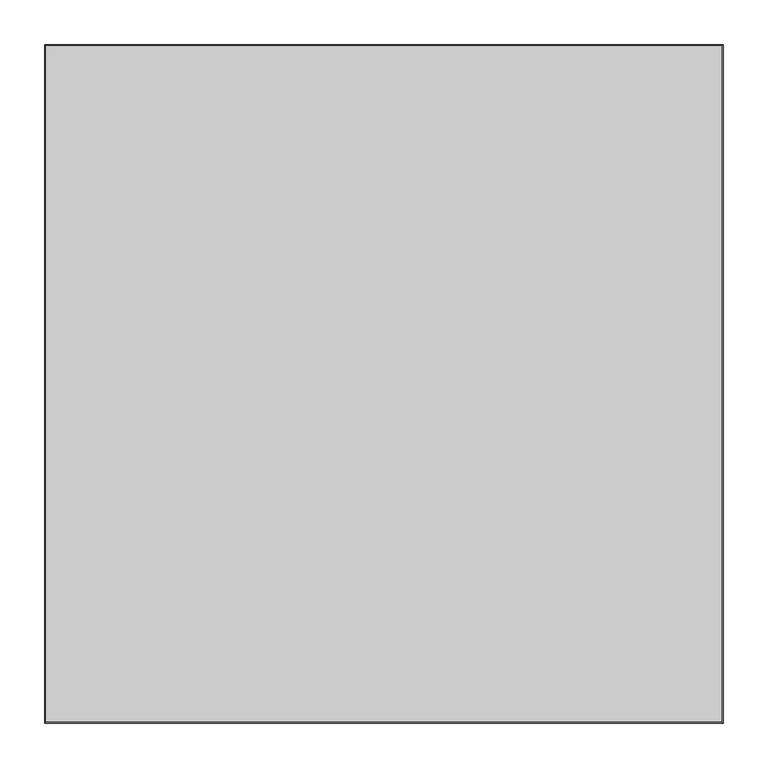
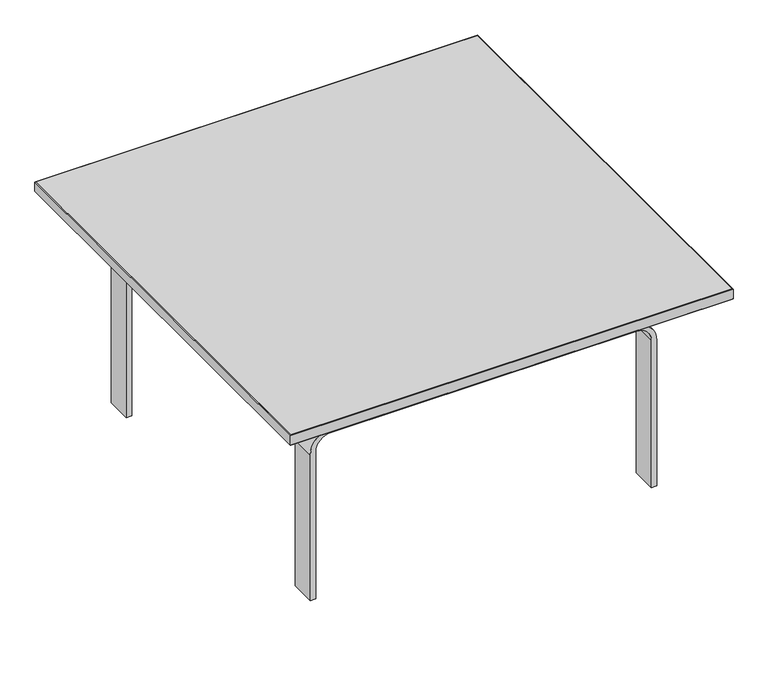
"""IFC4 building model written with IfcOpenShell, lengths in millimetres: furniture geometry, Steelcase Coalesse - Millbrae - Table (1) : Square - 30D x 30W x 15H."""

from ifc_helpers import new_model, si_unit, point, frame, frame_2d, origin, place, context, project, spatial, polyline, circle_curve, trimmed, segment, composite_curve, outline, extrude, faceted_brep, source, transform, mapped, element, save


def furniture_46ca7431(model_context):
    return source(origin(), model_context, "Body", "SolidModel", [
        faceted_brep([(-420.1702118, 1.015999, 361.95), (-420.1702118, 1.015999, 381.0), (-420.1702118, 760.9839783, 381.0), (-420.1702118, 760.9839783, 361.95), (-419.1542128, 0.0, 362.965999), (-419.1542128, 761.9999773, 362.965999), (-419.1542128, 0.0, 379.984001), (-419.1542128, 761.9999773, 379.984001), (-1180.1382118, 760.9839783, 381.0), (-1180.1382118, 760.9839783, 361.95), (-1181.1542108, 761.9999773, 362.965999), (-1181.1542108, 761.9999773, 379.984001), (-1180.1382118, 1.015999, 381.0), (-1180.1382118, 1.015999, 361.95), (-1181.1542108, 0.0, 362.965999), (-1181.1542108, 0.0, 379.984001)], [[[0, 1, 2, 3]], [[4, 0, 3, 5]], [[6, 4, 5, 7]], [[1, 6, 7, 2]], [[3, 2, 8, 9]], [[5, 3, 9, 10]], [[7, 5, 10, 11]], [[2, 7, 11, 8]], [[9, 8, 12, 13]], [[10, 9, 13, 14]], [[11, 10, 14, 15]], [[8, 11, 15, 12]], [[13, 12, 1, 0]], [[14, 13, 0, 4]], [[15, 14, 4, 6]], [[12, 15, 6, 1]]]),
        extrude(outline(polyline([(-420.1702118, 760.9839783), (-420.1702118, 1.015999), (-1180.1382118, 1.015999), (-1180.1382118, 760.9839783), (-420.1702118, 760.9839783)])), frame((0.0, 0.0, 361.95), z_axis=(0.0, 0.0, 1.0), x_axis=(1.0, 0.0, 0.0)), (0.0, 0.0, 1.0), 19.05),
        extrude(outline(composite_curve([segment(trimmed(circle_curve(frame_2d((268.4779922, -536.6291876)), 25.4), [point((293.8779922, -536.6291876))], [point((268.4779922, -511.2291876))], True, "CARTESIAN"), True, "CONTINUOUS"), segment(polyline([(268.4779922, -511.2291876), (0.0, -511.2291876), (0.0, -501.7041876), (265.3029922, -501.7041876)]), True, "CONTINUOUS"), segment(trimmed(circle_curve(frame_2d((265.3029922, -539.8041876)), 38.1), [point((265.3029922, -501.7041876))], [point((303.4029922, -539.8041876))], False, "CARTESIAN"), True, "CONTINUOUS"), segment(polyline([(303.4029922, -539.8041876), (303.4029922, -1060.5042088)]), True, "CONTINUOUS"), segment(trimmed(circle_curve(frame_2d((265.3029922, -1060.5042088)), 38.1), [point((303.4029922, -1060.5042088))], [point((265.3029922, -1098.6042088))], False, "CARTESIAN"), True, "CONTINUOUS"), segment(polyline([(265.3029922, -1098.6042088), (0.0, -1098.6042088), (0.0, -1089.0792088), (268.4779922, -1089.0792088)]), True, "CONTINUOUS"), segment(trimmed(circle_curve(frame_2d((268.4779922, -1063.6792088)), 25.4), [point((268.4779922, -1089.0792088))], [point((293.8779922, -1063.6792088))], True, "CARTESIAN"), True, "CONTINUOUS"), segment(polyline([(293.8779922, -1063.6792088), (293.8779922, -536.6291876)]), True, "CONTINUOUS")], self_intersect=False)), frame((0.0, 633.349, 0.0), z_axis=(0.0, 1.0, 0.0), x_axis=(0.0, 0.0, 1.0)), (0.0, 0.0, 1.0), 44.45),
        extrude(outline(composite_curve([segment(trimmed(circle_curve(frame_2d((268.4779922, -536.6291876)), 25.4), [point((293.8779922, -536.6291876))], [point((268.4779922, -511.2291876))], True, "CARTESIAN"), True, "CONTINUOUS"), segment(polyline([(268.4779922, -511.2291876), (0.0, -511.2291876), (0.0, -501.7041876), (265.3029922, -501.7041876)]), True, "CONTINUOUS"), segment(trimmed(circle_curve(frame_2d((265.3029922, -539.8041876)), 38.1), [point((265.3029922, -501.7041876))], [point((303.4029922, -539.8041876))], False, "CARTESIAN"), True, "CONTINUOUS"), segment(polyline([(303.4029922, -539.8041876), (303.4029922, -1060.5042088)]), True, "CONTINUOUS"), segment(trimmed(circle_curve(frame_2d((265.3029922, -1060.5042088)), 38.1), [point((303.4029922, -1060.5042088))], [point((265.3029922, -1098.6042088))], False, "CARTESIAN"), True, "CONTINUOUS"), segment(polyline([(265.3029922, -1098.6042088), (0.0, -1098.6042088), (0.0, -1089.0792088), (268.4779922, -1089.0792088)]), True, "CONTINUOUS"), segment(trimmed(circle_curve(frame_2d((268.4779922, -1063.6792088)), 25.4), [point((268.4779922, -1089.0792088))], [point((293.8779922, -1063.6792088))], True, "CARTESIAN"), True, "CONTINUOUS"), segment(polyline([(293.8779922, -1063.6792088), (293.8779922, -536.6291876)]), True, "CONTINUOUS")], self_intersect=False)), frame((0.0, 84.201, 0.0), z_axis=(0.0, 1.0, 0.0), x_axis=(0.0, 0.0, 1.0)), (0.0, 0.0, 1.0), 44.45),
        extrude(outline(polyline([(-1028.7542118, 112.7759651), (-1028.7542118, 100.0760136), (-1041.4542088, 100.0760136), (-1041.4542088, 112.7759651), (-1028.7542118, 112.7759651)])), frame((0.0, 0.0, 357.3780044), z_axis=(0.0, 0.0, 1.0), x_axis=(1.0, 0.0, 0.0)), (0.0, 0.0, 1.0), 4.5719956),
        extrude(outline(polyline([(-1028.7542118, 649.2240122), (-1041.4542088, 649.2240122), (-1041.4542088, 661.9239637), (-1028.7542118, 661.9239637), (-1028.7542118, 649.2240122)])), frame((0.0, 0.0, 357.3780044), z_axis=(0.0, 0.0, 1.0), x_axis=(1.0, 0.0, 0.0)), (0.0, 0.0, 1.0), 4.5719956),
        extrude(outline(polyline([(-571.5542118, 112.7759651), (-558.8542148, 112.7759651), (-558.8542148, 100.0760136), (-571.5542118, 100.0760136), (-571.5542118, 112.7759651)])), frame((0.0, 0.0, 357.3780044), z_axis=(0.0, 0.0, 1.0), x_axis=(1.0, 0.0, 0.0)), (0.0, 0.0, 1.0), 4.5719956),
        extrude(outline(polyline([(-571.5542118, 649.2240122), (-571.5542118, 661.9239637), (-558.8542148, 661.9239637), (-558.8542148, 649.2240122), (-571.5542118, 649.2240122)])), frame((0.0, 0.0, 357.3780044), z_axis=(0.0, 0.0, 1.0), x_axis=(1.0, 0.0, 0.0)), (0.0, 0.0, 1.0), 4.5719956),
        extrude(outline(polyline([(-1022.4042179, 119.1260136), (-1022.4042179, 93.7259651), (-1047.8042118, 93.7259651), (-1047.8042118, 119.1260136), (-1022.4042179, 119.1260136)])), frame((0.0, 0.0, 303.4029922), z_axis=(0.0, 0.0, 1.0), x_axis=(1.0, 0.0, 0.0)), (0.0, 0.0, 1.0), 44.45),
        extrude(outline(polyline([(-577.9042058, 119.1260136), (-552.5042118, 119.1260136), (-552.5042118, 93.7259651), (-577.9042058, 93.7259651), (-577.9042058, 119.1260136)])), frame((0.0, 0.0, 303.4029922), z_axis=(0.0, 0.0, 1.0), x_axis=(1.0, 0.0, 0.0)), (0.0, 0.0, 1.0), 44.45),
        extrude(outline(polyline([(-1022.4042179, 642.8739637), (-1047.8042118, 642.8739637), (-1047.8042118, 668.2740122), (-1022.4042179, 668.2740122), (-1022.4042179, 642.8739637)])), frame((0.0, 0.0, 303.4029922), z_axis=(0.0, 0.0, 1.0), x_axis=(1.0, 0.0, 0.0)), (0.0, 0.0, 1.0), 44.45),
        extrude(outline(polyline([(-577.9042058, 642.8739637), (-577.9042058, 668.2740122), (-552.5042118, 668.2740122), (-552.5042118, 642.8739637), (-577.9042058, 642.8739637)])), frame((0.0, 0.0, 303.4029922), z_axis=(0.0, 0.0, 1.0), x_axis=(1.0, 0.0, 0.0)), (0.0, 0.0, 1.0), 44.45),
        extrude(outline(polyline([(-1012.8792179, 44.4499758), (-1057.3292118, 44.4499758), (-1057.3292118, 717.5500015), (-1012.8792179, 717.5500015), (-1012.8792179, 44.4499758)])), frame((0.0, 0.0, 347.8529922), z_axis=(0.0, 0.0, 1.0), x_axis=(1.0, 0.0, 0.0)), (0.0, 0.0, 1.0), 9.5250121),
        extrude(outline(polyline([(-587.4292058, 44.4499758), (-587.4292058, 717.5500015), (-542.9792118, 717.5500015), (-542.9792118, 44.4499758), (-587.4292058, 44.4499758)])), frame((0.0, 0.0, 347.8529922), z_axis=(0.0, 0.0, 1.0), x_axis=(1.0, 0.0, 0.0)), (0.0, 0.0, 1.0), 9.5250121),
    ])


if __name__ == "__main__":
    model = new_model("IFC4")
    model_context = context("Model", 3, world=origin())
    ifc_project = project(units=[si_unit("LENGTHUNIT", "METRE", prefix="MILLI")], contexts=[model_context])
    site = spatial("IfcSite", under=ifc_project)
    building = spatial("IfcBuilding", under=site)
    placement = place(None, origin())
    furniture_shape = furniture_46ca7431(model_context)
    element("IfcFurniture", 1, ObjectType="Steelcase Coalesse - Millbrae - Table (1) : Square - 30D x 30W x 15H", at=placement, inside=building, context=model_context, shape_type="MappedRepresentation", body=[
        mapped(furniture_shape, transform((0.0, 0.0, 0.0), x_axis=(1.0, 0.0, 0.0), y_axis=(0.0, 1.0, 0.0), z_axis=(0.0, 0.0, 1.0))),
    ])
    save(model, "model.ifc")
